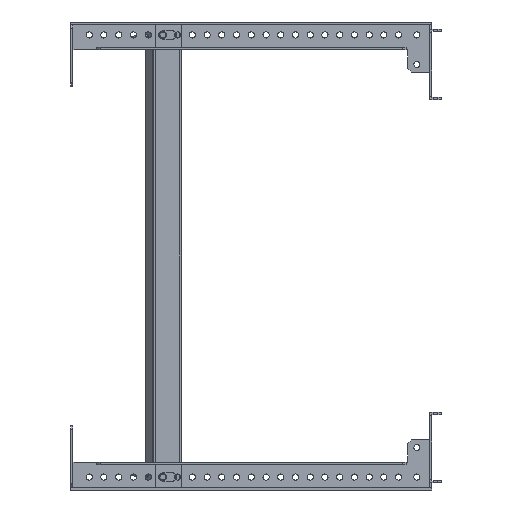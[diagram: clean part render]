
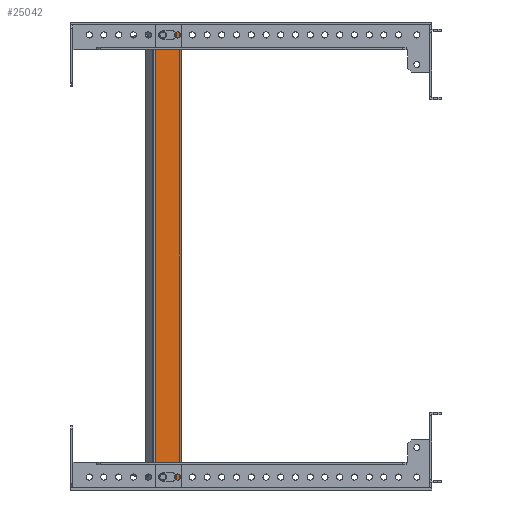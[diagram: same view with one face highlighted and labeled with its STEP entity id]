
A CAD part, front view. The second image highlights one B-rep face of the part: STEP entity #25042.
In plain terms, the highlighted planar face has unit normal (0, -1, 0).
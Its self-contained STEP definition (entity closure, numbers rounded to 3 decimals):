
#71 = EDGE_CURVE ( 'NONE', #22301, #14593, #7180, .T. ) ;
#161 = VECTOR ( 'NONE', #14216, 1000. ) ;
#181 = EDGE_CURVE ( 'NONE', #26089, #23520, #25877, .T. ) ;
#735 = DIRECTION ( 'NONE',  ( -1., 0., 0. ) ) ;
#1498 = VERTEX_POINT ( 'NONE', #12207 ) ;
#1566 = EDGE_CURVE ( 'NONE', #12297, #17025, #24523, .T. ) ;
#1596 = VECTOR ( 'NONE', #25748, 1000. ) ;
#1620 = ORIENTED_EDGE ( 'NONE', *, *, #13365, .T. ) ;
#1980 = LINE ( 'NONE', #12010, #3037 ) ;
#2245 = CARTESIAN_POINT ( 'NONE',  ( 1112.302, -254., 291. ) ) ;
#2431 = DIRECTION ( 'NONE',  ( -1., 0., 0. ) ) ;
#2452 = LINE ( 'NONE', #20555, #7285 ) ;
#2836 = CARTESIAN_POINT ( 'NONE',  ( 1112.302, -254., -91. ) ) ;
#2939 = VECTOR ( 'NONE', #4210, 1000. ) ;
#3037 = VECTOR ( 'NONE', #20074, 1000. ) ;
#3860 = CARTESIAN_POINT ( 'NONE',  ( 1120.302, -254., 291. ) ) ;
#4210 = DIRECTION ( 'NONE',  ( 0., 0., 1. ) ) ;
#4352 = CARTESIAN_POINT ( 'NONE',  ( 1105.802, -254., -97.5 ) ) ;
#4593 = CARTESIAN_POINT ( 'NONE',  ( 1108.802, -254., -87.5 ) ) ;
#4658 = AXIS2_PLACEMENT_3D ( 'NONE', #15075, #13089, #11112 ) ;
#4686 = CARTESIAN_POINT ( 'NONE',  ( 1112.302, -254., 287.5 ) ) ;
#4700 = CARTESIAN_POINT ( 'NONE',  ( 1120.302, -254., 287.5 ) ) ;
#4720 = CIRCLE ( 'NONE', #12282, 3.5 ) ;
#5175 = CIRCLE ( 'NONE', #19929, 3.5 ) ;
#5811 = DIRECTION ( 'NONE',  ( 1., 0., 0. ) ) ;
#5828 = FACE_BOUND ( 'NONE', #21541, .T. ) ;
#6128 = CARTESIAN_POINT ( 'NONE',  ( 1112.302, -254., 287.5 ) ) ;
#6513 = VECTOR ( 'NONE', #15968, 1000. ) ;
#6521 = VERTEX_POINT ( 'NONE', #10475 ) ;
#6943 = AXIS2_PLACEMENT_3D ( 'NONE', #6128, #14189, #12184 ) ;
#7180 = CIRCLE ( 'NONE', #4658, 3.5 ) ;
#7285 = VECTOR ( 'NONE', #14351, 1000. ) ;
#7569 = CARTESIAN_POINT ( 'NONE',  ( 1112.302, -254., -84. ) ) ;
#7797 = EDGE_CURVE ( 'NONE', #17314, #6521, #5175, .T. ) ;
#7886 = CARTESIAN_POINT ( 'NONE',  ( 1150.146, -254., -97.5 ) ) ;
#7888 = LINE ( 'NONE', #26081, #161 ) ;
#7914 = CARTESIAN_POINT ( 'NONE',  ( 1112.302, -254., 284. ) ) ;
#8081 = CARTESIAN_POINT ( 'NONE',  ( 1105.802, -254., -97.5 ) ) ;
#8468 = EDGE_CURVE ( 'NONE', #17202, #17733, #10152, .T. ) ;
#9052 = DIRECTION ( 'NONE',  ( 0., 1., 0. ) ) ;
#9173 = DIRECTION ( 'NONE',  ( 1., 0., 0. ) ) ;
#9294 = CARTESIAN_POINT ( 'NONE',  ( 1150.77, -254., 100. ) ) ;
#9348 = ORIENTED_EDGE ( 'NONE', *, *, #9674, .F. ) ;
#9411 = EDGE_LOOP ( 'NONE', ( #1620, #20694, #14163, #11658, #15787 ) ) ;
#9674 = EDGE_CURVE ( 'NONE', #23520, #17036, #4720, .T. ) ;
#9957 = EDGE_CURVE ( 'NONE', #17025, #17314, #1980, .T. ) ;
#10152 = LINE ( 'NONE', #4352, #2939 ) ;
#10192 = ORIENTED_EDGE ( 'NONE', *, *, #10354, .T. ) ;
#10354 = EDGE_CURVE ( 'NONE', #13458, #1498, #2452, .T. ) ;
#10475 = CARTESIAN_POINT ( 'NONE',  ( 1120.302, -254., 284. ) ) ;
#11112 = DIRECTION ( 'NONE',  ( -1., 0., 0. ) ) ;
#11251 = LINE ( 'NONE', #19571, #1596 ) ;
#11451 = VERTEX_POINT ( 'NONE', #13653 ) ;
#11658 = ORIENTED_EDGE ( 'NONE', *, *, #7797, .T. ) ;
#11900 = ORIENTED_EDGE ( 'NONE', *, *, #22730, .F. ) ;
#11914 = EDGE_CURVE ( 'NONE', #6521, #11451, #25860, .T. ) ;
#11994 = AXIS2_PLACEMENT_3D ( 'NONE', #9294, #9052, #9173 ) ;
#12010 = CARTESIAN_POINT ( 'NONE',  ( 1112.302, -254., 291. ) ) ;
#12184 = DIRECTION ( 'NONE',  ( -1., 0., 0. ) ) ;
#12207 = CARTESIAN_POINT ( 'NONE',  ( 1128.304, -254., 297.5 ) ) ;
#12282 = AXIS2_PLACEMENT_3D ( 'NONE', #23368, #17311, #15333 ) ;
#12297 = VERTEX_POINT ( 'NONE', #16458 ) ;
#12589 = CARTESIAN_POINT ( 'NONE',  ( 1128.304, -254., -97.5 ) ) ;
#12888 = VECTOR ( 'NONE', #22251, 1000. ) ;
#12919 = EDGE_CURVE ( 'NONE', #17036, #22301, #7888, .T. ) ;
#13089 = DIRECTION ( 'NONE',  ( 0., -1., 0. ) ) ;
#13365 = EDGE_CURVE ( 'NONE', #11451, #12297, #25905, .T. ) ;
#13458 = VERTEX_POINT ( 'NONE', #12589 ) ;
#13653 = CARTESIAN_POINT ( 'NONE',  ( 1112.302, -254., 284. ) ) ;
#14163 = ORIENTED_EDGE ( 'NONE', *, *, #9957, .T. ) ;
#14189 = DIRECTION ( 'NONE',  ( 0., 1., 0. ) ) ;
#14216 = DIRECTION ( 'NONE',  ( -1., 0., 0. ) ) ;
#14264 = CARTESIAN_POINT ( 'NONE',  ( 1120.302, -254., -84. ) ) ;
#14351 = DIRECTION ( 'NONE',  ( 0., 0., 1. ) ) ;
#14415 = ORIENTED_EDGE ( 'NONE', *, *, #12919, .F. ) ;
#14593 = VERTEX_POINT ( 'NONE', #4593 ) ;
#15075 = CARTESIAN_POINT ( 'NONE',  ( 1112.302, -254., -87.5 ) ) ;
#15317 = EDGE_CURVE ( 'NONE', #14593, #26089, #23263, .T. ) ;
#15333 = DIRECTION ( 'NONE',  ( -1., 0., 0. ) ) ;
#15368 = ORIENTED_EDGE ( 'NONE', *, *, #25942, .F. ) ;
#15383 = FACE_OUTER_BOUND ( 'NONE', #24298, .T. ) ;
#15756 = ORIENTED_EDGE ( 'NONE', *, *, #71, .F. ) ;
#15787 = ORIENTED_EDGE ( 'NONE', *, *, #11914, .T. ) ;
#15968 = DIRECTION ( 'NONE',  ( -1., 0., 0. ) ) ;
#16028 = ORIENTED_EDGE ( 'NONE', *, *, #8468, .F. ) ;
#16452 = LINE ( 'NONE', #7886, #12888 ) ;
#16458 = CARTESIAN_POINT ( 'NONE',  ( 1108.802, -254., 287.5 ) ) ;
#16529 = AXIS2_PLACEMENT_3D ( 'NONE', #4686, #24614, #2431 ) ;
#16905 = DIRECTION ( 'NONE',  ( -1., 0., 0. ) ) ;
#16985 = DIRECTION ( 'NONE',  ( 0., 1., 0. ) ) ;
#17025 = VERTEX_POINT ( 'NONE', #2245 ) ;
#17036 = VERTEX_POINT ( 'NONE', #14264 ) ;
#17202 = VERTEX_POINT ( 'NONE', #8081 ) ;
#17311 = DIRECTION ( 'NONE',  ( 0., -1., 0. ) ) ;
#17314 = VERTEX_POINT ( 'NONE', #3860 ) ;
#17733 = VERTEX_POINT ( 'NONE', #17815 ) ;
#17815 = CARTESIAN_POINT ( 'NONE',  ( 1105.802, -254., 297.5 ) ) ;
#19067 = ORIENTED_EDGE ( 'NONE', *, *, #15317, .F. ) ;
#19553 = CARTESIAN_POINT ( 'NONE',  ( 1112.302, -254., -91. ) ) ;
#19571 = CARTESIAN_POINT ( 'NONE',  ( 1105.802, -254., 297.5 ) ) ;
#19929 = AXIS2_PLACEMENT_3D ( 'NONE', #4700, #16985, #735 ) ;
#20074 = DIRECTION ( 'NONE',  ( 1., 0., 0. ) ) ;
#20555 = CARTESIAN_POINT ( 'NONE',  ( 1128.304, -254., -100.859 ) ) ;
#20694 = ORIENTED_EDGE ( 'NONE', *, *, #1566, .T. ) ;
#21000 = CARTESIAN_POINT ( 'NONE',  ( 1112.302, -254., -87.5 ) ) ;
#21229 = CARTESIAN_POINT ( 'NONE',  ( 1120.302, -254., -91. ) ) ;
#21325 = FACE_BOUND ( 'NONE', #9411, .T. ) ;
#21541 = EDGE_LOOP ( 'NONE', ( #23021, #19067, #15756, #14415, #9348 ) ) ;
#21545 = VECTOR ( 'NONE', #5811, 1000. ) ;
#22251 = DIRECTION ( 'NONE',  ( -1., 0., 0. ) ) ;
#22301 = VERTEX_POINT ( 'NONE', #7569 ) ;
#22730 = EDGE_CURVE ( 'NONE', #17733, #1498, #11251, .T. ) ;
#22842 = AXIS2_PLACEMENT_3D ( 'NONE', #21000, #23102, #16905 ) ;
#23021 = ORIENTED_EDGE ( 'NONE', *, *, #181, .F. ) ;
#23102 = DIRECTION ( 'NONE',  ( 0., -1., 0. ) ) ;
#23263 = CIRCLE ( 'NONE', #22842, 3.5 ) ;
#23368 = CARTESIAN_POINT ( 'NONE',  ( 1120.302, -254., -87.5 ) ) ;
#23520 = VERTEX_POINT ( 'NONE', #21229 ) ;
#24298 = EDGE_LOOP ( 'NONE', ( #11900, #16028, #15368, #10192 ) ) ;
#24523 = CIRCLE ( 'NONE', #16529, 3.5 ) ;
#24614 = DIRECTION ( 'NONE',  ( 0., 1., 0. ) ) ;
#25042 = ADVANCED_FACE ( 'NONE', ( #15383, #21325, #5828 ), #25392, .F. ) ;
#25392 = PLANE ( 'NONE',  #11994 ) ;
#25748 = DIRECTION ( 'NONE',  ( 1., 0., 0. ) ) ;
#25860 = LINE ( 'NONE', #7914, #6513 ) ;
#25877 = LINE ( 'NONE', #19553, #21545 ) ;
#25905 = CIRCLE ( 'NONE', #6943, 3.5 ) ;
#25942 = EDGE_CURVE ( 'NONE', #13458, #17202, #16452, .T. ) ;
#26081 = CARTESIAN_POINT ( 'NONE',  ( 1112.302, -254., -84. ) ) ;
#26089 = VERTEX_POINT ( 'NONE', #2836 ) ;
